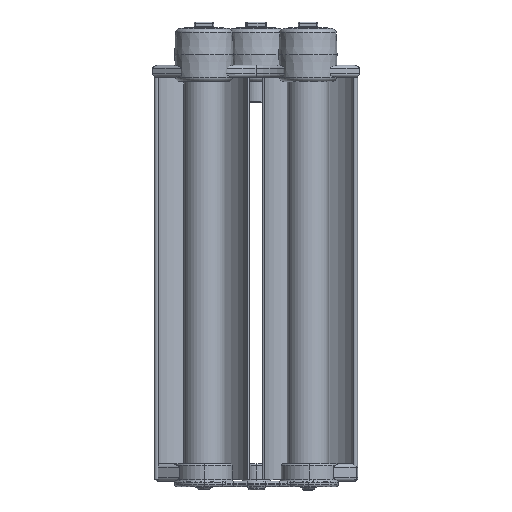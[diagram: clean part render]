
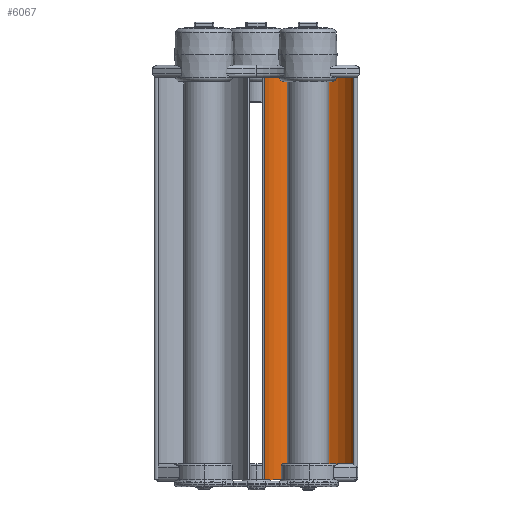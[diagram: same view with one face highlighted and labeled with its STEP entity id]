
A CAD part, front view. The second image highlights one B-rep face of the part: STEP entity #6067.
In plain terms, the highlighted cylindrical face has radius 73.187 mm (diameter 146.374 mm), a partial arc.
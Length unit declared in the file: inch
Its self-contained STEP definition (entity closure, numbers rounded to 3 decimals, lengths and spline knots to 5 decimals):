
#394 = DIRECTION ( 'NONE',  ( 0., 0., 1. ) ) ;
#1652 = EDGE_CURVE ( 'NONE', #16215, #22126, #21288, .T. ) ;
#3204 = LINE ( 'NONE', #10755, #16466 ) ;
#4047 = CARTESIAN_POINT ( 'NONE',  ( -3.39734, -1.98962, -20.60837 ) ) ;
#4715 = CIRCLE ( 'NONE', #11817, 2.88138 ) ;
#4794 = CARTESIAN_POINT ( 'NONE',  ( -0.8316, -0.6784, -20.60837 ) ) ;
#5498 = EDGE_LOOP ( 'NONE', ( #12007, #15956, #21989, #7151 ) ) ;
#5778 = VERTEX_POINT ( 'NONE', #7969 ) ;
#5805 = DIRECTION ( 'NONE',  ( -1., 0., 0. ) ) ;
#6067 = ADVANCED_FACE ( 'NONE', ( #14355 ), #17065, .F. ) ;
#6385 = CARTESIAN_POINT ( 'NONE',  ( -6.05553, -0.8777, 2.51663 ) ) ;
#6575 = CARTESIAN_POINT ( 'NONE',  ( -3.39734, -1.98962, 2.51663 ) ) ;
#7151 = ORIENTED_EDGE ( 'NONE', *, *, #1652, .T. ) ;
#7969 = CARTESIAN_POINT ( 'NONE',  ( -6.05553, -0.8777, -20.60837 ) ) ;
#8308 = DIRECTION ( 'NONE',  ( -1., 0., 0. ) ) ;
#9133 = AXIS2_PLACEMENT_3D ( 'NONE', #4047, #16158, #5805 ) ;
#10177 = CARTESIAN_POINT ( 'NONE',  ( -0.8316, -0.6784, -20.60837 ) ) ;
#10565 = CARTESIAN_POINT ( 'NONE',  ( -0.8316, -0.6784, 2.51663 ) ) ;
#10755 = CARTESIAN_POINT ( 'NONE',  ( -6.05553, -0.8777, -20.60837 ) ) ;
#11817 = AXIS2_PLACEMENT_3D ( 'NONE', #6575, #18646, #8308 ) ;
#11825 = EDGE_CURVE ( 'NONE', #22436, #22126, #4715, .T. ) ;
#12007 = ORIENTED_EDGE ( 'NONE', *, *, #11825, .F. ) ;
#12100 = VECTOR ( 'NONE', #17123, 39.37008 ) ;
#12135 = DIRECTION ( 'NONE',  ( 0., 0., 1. ) ) ;
#12641 = EDGE_CURVE ( 'NONE', #5778, #16215, #19362, .T. ) ;
#13835 = CARTESIAN_POINT ( 'NONE',  ( -3.39734, -1.98962, -20.60837 ) ) ;
#14355 = FACE_OUTER_BOUND ( 'NONE', #5498, .T. ) ;
#15639 = DIRECTION ( 'NONE',  ( 1., 0., 0. ) ) ;
#15956 = ORIENTED_EDGE ( 'NONE', *, *, #17235, .F. ) ;
#16158 = DIRECTION ( 'NONE',  ( 0., 0., -1. ) ) ;
#16215 = VERTEX_POINT ( 'NONE', #4794 ) ;
#16466 = VECTOR ( 'NONE', #394, 39.37008 ) ;
#17065 = CYLINDRICAL_SURFACE ( 'NONE', #17489, 2.88138 ) ;
#17123 = DIRECTION ( 'NONE',  ( 0., 0., 1. ) ) ;
#17235 = EDGE_CURVE ( 'NONE', #5778, #22436, #3204, .T. ) ;
#17489 = AXIS2_PLACEMENT_3D ( 'NONE', #13835, #12135, #15639 ) ;
#18646 = DIRECTION ( 'NONE',  ( 0., 0., -1. ) ) ;
#19362 = CIRCLE ( 'NONE', #9133, 2.88138 ) ;
#21288 = LINE ( 'NONE', #10177, #12100 ) ;
#21989 = ORIENTED_EDGE ( 'NONE', *, *, #12641, .T. ) ;
#22126 = VERTEX_POINT ( 'NONE', #10565 ) ;
#22436 = VERTEX_POINT ( 'NONE', #6385 ) ;
